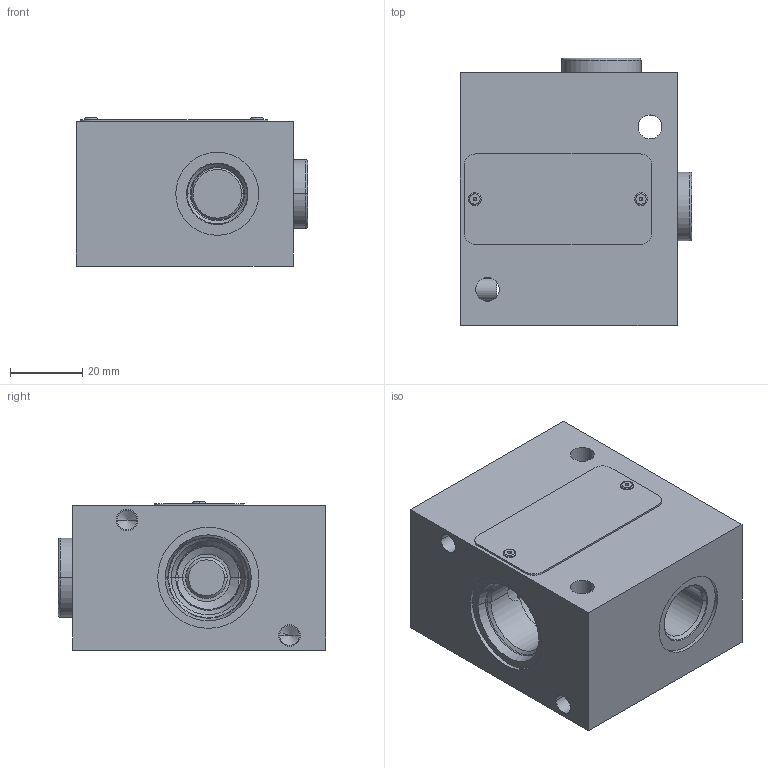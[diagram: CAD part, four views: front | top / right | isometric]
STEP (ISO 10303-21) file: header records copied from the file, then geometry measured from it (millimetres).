
FILE_DESCRIPTION((''),'2;1');
FILE_NAME('1000007637_ASM','2023-10-12T',('l.soukupova'),(''),'PRO/ENGINEER BY PARAMETRIC TECHNOLOGY CORPORATION, 2015440','PRO/ENGINEER BY PARAMETRIC TECHNOLOGY CORPORATION, 2015440','');
FILE_SCHEMA(('AUTOMOTIVE_DESIGN { 1 0 10303 214 1 1 1 1 }'));
Length unit declared in the file: millimetre
Products named in the file (6): 1000007620; RD_LABEL_25X52_159703; AF_1932_16485; VSTI_1_4_ED_156253; VSTI_3_8_ED_166816; 1000007637_ASM
Assembly tree (6 placements, depth 2):
  1000007637_ASM
    1000007620
    RD_LABEL_25X52_159703
    AF_1932_16485  x2
    VSTI_1_4_ED_156253
    VSTI_3_8_ED_166816
Bounding box: 64 x 74 x 41 mm (x, y, z)
Volume: 142467.2 mm3; surface area: 37235.3 mm2
Topology: 6 solids, 15 shells, 228 faces, 587 edges, 418 vertices
Faces by surface type: cylinder 102, plane 62, cone 48, torus 16
Entity records: 9054 total; most frequent: CARTESIAN_POINT 2063, DIRECTION 1270, ORIENTED_EDGE 958, AXIS2_PLACEMENT_3D 507, EDGE_CURVE 497, PRESENTATION_STYLE_ASSIGNMENT 335, STYLED_ITEM 321, CURVE_STYLE 309
